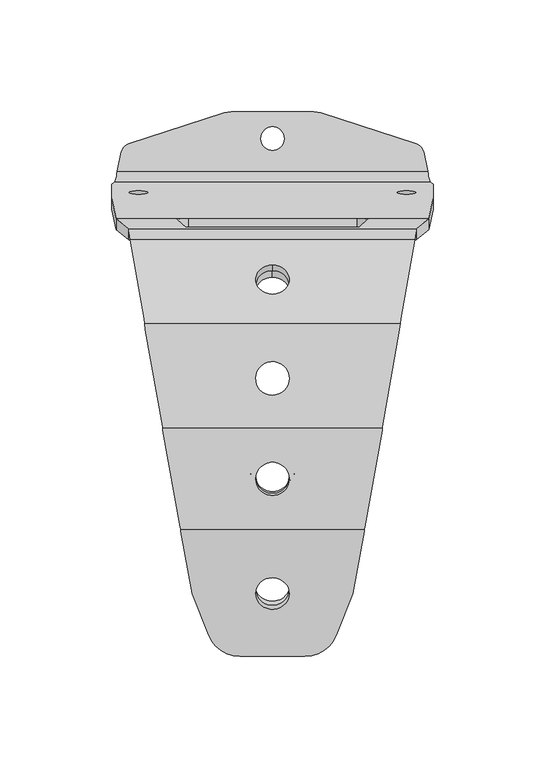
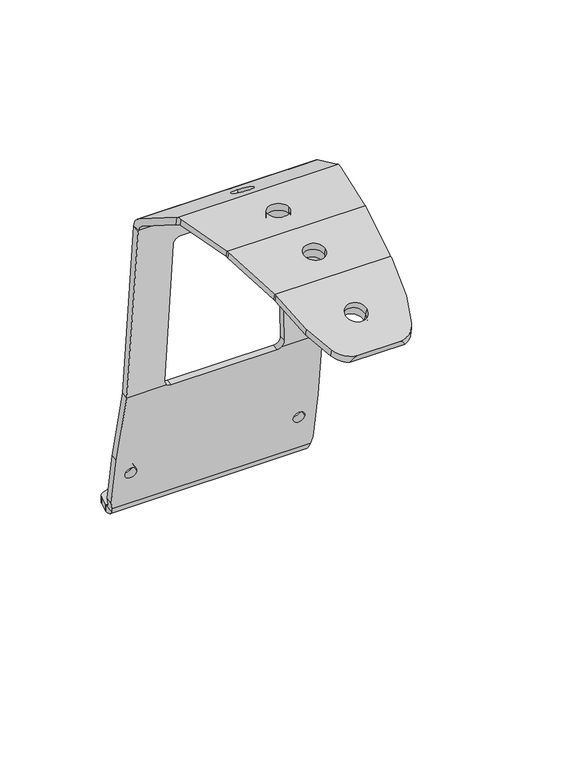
"""IFC4 building model written with IfcOpenShell, lengths in millimetres: proxy geometry, d&b U-Series U3 Vertical Bracket : d&b U-Series U3 Vertical Bracket."""

from ifc_helpers import new_model, si_unit, point, frame, frame_2d, origin, place, context, project, spatial, polyline, circle_curve, ellipse_curve, trimmed, segment, composite_curve, outline, extrude, source, transform, mapped, element, save
from ifc_brep_helpers import plane_surface, cylinder_surface, revolved_surface, advanced_brep


def communication_devices_6d1422ba(model_context):
    return source(origin(), model_context, "Body", "SolidModel", [
        extrude(outline(composite_curve([segment(trimmed(circle_curve(frame_2d((0.0, 5.0)), 5.0), [point((-4.8756643, 6.1081055))], [point((-1.5385005, 9.757417))], False, "CARTESIAN"), True, "CONTINUOUS"), segment(polyline([(-1.5385005, 9.757417), (41.2545364, 23.5962514)]), True, "CONTINUOUS"), segment(trimmed(circle_curve(frame_2d((44.3315373, 14.0814174)), 10.0), [point((41.2545364, 23.5962514))], [point((44.3315373, 24.0814174))], False, "CARTESIAN"), True, "CONTINUOUS"), segment(polyline([(44.3315373, 24.0814174), (81.1780379, 24.0814174)]), True, "CONTINUOUS"), segment(trimmed(circle_curve(frame_2d((81.1780379, 14.0814174)), 10.0), [point((81.1780379, 24.0814174))], [point((84.2550388, 23.5962514))], False, "CARTESIAN"), True, "CONTINUOUS"), segment(polyline([(84.2550388, 23.5962514), (127.0480757, 9.757417)]), True, "CONTINUOUS"), segment(trimmed(circle_curve(frame_2d((125.5095752, 5.0)), 5.0), [point((127.0480757, 9.757417))], [point((130.3852395, 6.1081055))], False, "CARTESIAN"), True, "CONTINUOUS"), segment(polyline([(130.3852395, 6.1081055), (132.3478965, -2.5275849), (-6.8383213, -2.5275849), (-4.8756643, 6.1081055)]), True, "CONTINUOUS")], self_intersect=False), holes=[composite_curve([segment(trimmed(circle_curve(frame_2d((62.7547876, 12.0578536)), 5.25), [point((57.5047876, 12.0578536))], [point((68.0047876, 12.0578536))], True, "CARTESIAN"), True, "CONTINUOUS"), segment(trimmed(circle_curve(frame_2d((62.7547876, 12.0578536)), 5.25), [point((68.0047876, 12.0578536))], [point((57.5047876, 12.0578536))], True, "CARTESIAN"), True, "CONTINUOUS")], self_intersect=False)]), frame((-62.7547876, 133.205173, -13.9854349), z_axis=(0.0, -0.0003176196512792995, 0.9999999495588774), x_axis=(1.0, 0.0, 0.0)), (0.0, 0.0, 1.0), 5.0),
        advanced_brep(
        [(41.1821269, -29.7242263, 236.9121292), (41.2598718, -28.8626312, 237.0640517), (49.0622799, 14.5921226, 244.7262972), (49.1400247, 15.4537177, 244.8782197), (-49.1400247, 15.4537177, 244.8782197), (-49.0622799, 14.5921226, 244.7262972), (-41.2598718, -28.8626312, 237.0640517), (-41.1821269, -29.7242263, 236.9121292), (7.5, -7.1086021, 240.899874), (-7.5, -7.1086021, 240.899874), (49.2165885, 16.3286044, 244.8782197), (56.8594472, 59.5514151, 244.8782197), (57.1198307, 62.230907, 244.8782197), (-57.1198307, 62.230907, 244.8782197), (-56.8594472, 59.5514151, 244.8782197), (-49.2165885, 16.3286044, 244.8782197), (-7.4839243, 37.963436, 244.8782197), (7.4839263, 37.7285527, 244.8782197), (57.3223731, 64.5514151, 243.5384737), (63.6653039, 99.9620756, 223.0941193), (-63.6653039, 99.9620756, 223.0941193), (-57.3223731, 64.5514151, 243.5384737), (0.0, 88.6244069, 229.6399254), (0.0, 75.6340259, 237.1399254), (64.3689642, 104.9559839, 214.7828603), (-64.3689642, 104.9559839, 214.7828603), (69.9756834, 109.3839909, 87.9813307), (41.5029675, 109.3839909, 87.9813307), (42.807065, 109.2664249, 91.347979), (38.8273396, 105.6541079, 194.7912039), (33.8234974, 105.4794763, 199.7919979), (-33.8234974, 105.4794763, 199.7919979), (-38.8273396, 105.6541079, 194.7912039), (-42.8003682, 109.2603463, 91.5220466), (-41.501088, 109.3839909, 87.9813307), (-69.9756834, 109.3839909, 87.9813307), (-70.7531987, 125.7519586, -4.8460273), (-72.0, 124.8329971, 0.3656627), (-72.0, 118.526631, 36.1308421), (-37.8035084, 109.6705739, 86.3560376), (37.8040599, 109.6705739, 86.3560376), (72.0, 118.526631, 36.1308421), (72.0, 124.8329971, 0.3656627), (70.7531987, 125.7519586, -4.8460273), (-55.85, 121.1313536, 21.3587259), (-64.15, 121.1313536, 21.3587259), (55.85, 121.1313536, 21.3587259), (64.15, 121.1313536, 21.3587259), (69.5931089, 130.6759974, -8.9777864), (-69.5931089, 130.6759974, -8.9777864), (69.5931089, 130.6759974, -13.9777864), (69.5931089, 122.9596077, -10.3383941), (70.7531987, 120.8279199, -5.7142682), (-70.7531987, 120.8279199, -5.7142682), (-69.5931089, 122.9596077, -10.3383941), (-69.5931089, 130.6759974, -13.9777864), (72.0, 119.9089583, -0.5025782), (72.0, 113.6025922, 35.2626013), (69.9756834, 104.4599521, 87.1130898), (69.9600814, 104.3992388, 87.4574122), (41.1513049, 104.3992388, 87.4574122), (37.8040599, 104.6245118, 86.1798252), (-37.8035084, 104.6245118, 86.1798252), (-41.1495998, 104.3992388, 87.4574122), (-69.9600814, 104.3992388, 87.4574122), (-69.9756834, 104.4599521, 87.1130898), (-72.0, 113.6025922, 35.2626013), (-72.0, 119.9089583, -0.5025782), (-64.15, 116.2073149, 20.490485), (-55.85, 116.2073149, 20.490485), (64.15, 116.2073149, 20.490485), (55.85, 116.2073149, 20.490485), (-63.3663002, 99.9590297, 214.6083628), (-63.3464959, 99.9835538, 213.9060867), (-64.3689642, 99.9835538, 213.9060867), (-42.8003682, 104.2633922, 91.3475492), (-38.8273396, 100.6571538, 194.6167064), (-33.8234974, 100.4825222, 199.6175004), (33.8234974, 100.4825222, 199.6175004), (38.8273396, 100.6571538, 194.6167064), (42.807065, 104.2694708, 91.1734815), (64.3689642, 99.9835538, 213.9060867), (63.3464959, 99.9835538, 213.9060867), (63.3663002, 99.9590297, 214.6083628), (63.0144701, 97.4620756, 218.7639923), (-63.0144701, 97.4620756, 218.7639923), (57.3223731, 65.6848231, 237.1105976), (56.9039648, 60.891161, 239.8782197), (-56.9039648, 60.891161, 239.8782197), (-57.3223731, 65.6848231, 237.1105976), (0.0, 73.1340259, 232.8097984), (0.0, 86.1244069, 225.3097984), (56.8594472, 60.43305, 239.8782197), (49.2165885, 17.2102393, 239.8782197), (49.1011523, 15.891161, 239.8782197), (-49.1011523, 15.891161, 239.8782197), (-49.2165885, 17.2102393, 239.8782197), (-56.8594472, 60.43305, 239.8782197), (7.4839263, 37.7285527, 239.8782197), (-7.4839243, 37.963436, 239.8782197), (49.0622799, 15.4603635, 239.8022584), (41.2598718, -27.9943903, 232.1400129), (41.2209994, -28.4251879, 232.0640517), (-41.2209994, -28.4251879, 232.0640517), (-41.2598718, -27.9943903, 232.1400129), (-49.0622799, 15.4603635, 239.8022584), (-7.5, -6.2403612, 235.9758352), (7.5, -6.2403612, 235.9758352), (41.1055632, -29.6647159, 231.6129004), (35.8394989, -57.6499634, 221.4271033), (28.6219344, -76.2841576, 214.6448112), (19.5813606, -84.8067451, 211.5428431), (-19.5813606, -84.8067451, 211.5428431), (-28.6219344, -76.2841576, 214.6448112), (-35.8394989, -57.6499634, 221.4271033), (-41.1055632, -29.6647159, 231.6129004), (-7.4839263, -56.6467612, 221.792239), (7.4839243, -56.8674793, 221.7119042), (14.5521077, -86.5168458, 216.2413062), (-14.5521077, -86.5168458, 216.2413062), (-41.1055632, -30.5463508, 236.6129004), (-35.8394989, -58.5315983, 226.4271033), (-28.6219344, -77.1657925, 219.6448112), (28.6219344, -77.1657925, 219.6448112), (35.8394989, -58.5315983, 226.4271033), (41.1055632, -30.5463508, 236.6129004), (7.4839243, -58.5775801, 226.4103673), (-7.4839263, -58.3568619, 226.4907021)],
        [
            (0, 1),
            (1, 2),
            (2, 3),
            (3, 4),
            (4, 5),
            (5, 6),
            (6, 7),
            (7, 0),
            (8, 9, circle_curve(frame((0.0, -7.1086021, 240.899874), z_axis=(0.0, 0.17364817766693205, -0.9848077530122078), x_axis=(1.0, 0.0, 0.0)), 7.5)),
            (9, 8, circle_curve(frame((0.0, -7.1086021, 240.899874), z_axis=(0.0, 0.17364817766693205, -0.9848077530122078), x_axis=(1.0, 0.0, 0.0)), 7.5)),
            (3, 10),
            (10, 11),
            (11, 12),
            (12, 13),
            (13, 14),
            (14, 15),
            (15, 4),
            (16, 17, circle_curve(frame((0.0, 37.8459314, 244.8782197), z_axis=(0.0, 0.0, -1.0), x_axis=(-0.9998772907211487, 0.015665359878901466, 0.0)), 7.4848467)),
            (17, 16, circle_curve(frame((0.0, 37.8459314, 244.8782197), z_axis=(0.0, 0.0, -1.0), x_axis=(-0.9998772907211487, 0.015665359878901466, 0.0)), 7.4848467)),
            (12, 18),
            (18, 19),
            (19, 20),
            (20, 21),
            (21, 13),
            (22, 23, circle_curve(frame((0.0, 82.1292164, 233.3899254), z_axis=(0.0, -0.4999999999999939, -0.8660254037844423), x_axis=(0.0, 0.8660254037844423, -0.4999999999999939)), 7.5)),
            (23, 22, circle_curve(frame((0.0, 82.1292164, 233.3899254), z_axis=(0.0, -0.4999999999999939, -0.8660254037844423), x_axis=(0.0, 0.8660254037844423, -0.4999999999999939)), 7.5)),
            (19, 24, ellipse_curve(frame((62.3636363, 94.9620756, 214.4338653), z_axis=(-0.9801059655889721, 0.1954596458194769, 0.03446480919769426), x_axis=(0.19847492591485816, 0.9652159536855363, 0.17019361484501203)), 10.2029784, 10.0)),
            (24, 25),
            (25, 20, ellipse_curve(frame((-62.3636363, 94.9620756, 214.4338653), z_axis=(0.9801059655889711, 0.19545964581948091, 0.03446480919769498), x_axis=(0.19847492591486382, -0.965215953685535, -0.17019361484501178)), 10.2029784, 10.0)),
            (24, 26),
            (26, 27),
            (27, 28, circle_curve(frame((37.8040599, 109.2664249, 91.347979), z_axis=(0.0, -0.9993908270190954, -0.03489949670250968), x_axis=(0.0, 0.034899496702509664, -0.9993908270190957)), 5.0030051)),
            (28, 29),
            (29, 30, circle_curve(frame((33.8234974, 105.6541079, 194.7912039), z_axis=(0.0, -0.9993908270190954, -0.03489949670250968), x_axis=(0.0, 0.034899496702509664, -0.9993908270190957)), 5.0038422)),
            (30, 31),
            (31, 32, circle_curve(frame((-33.8234974, 105.6541079, 194.7912039), z_axis=(0.0, -0.9993908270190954, -0.03489949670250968), x_axis=(0.0, 0.034899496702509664, -0.9993908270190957)), 5.0038422)),
            (32, 33),
            (33, 34, circle_curve(frame((-37.8035084, 109.2665298, 91.3449757), z_axis=(0.0, -0.9993908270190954, -0.03489949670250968), x_axis=(0.0, 0.034899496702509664, -0.9993908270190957)), 5.0)),
            (34, 35),
            (35, 25),
            (36, 37),
            (37, 38),
            (38, 35),
            (34, 39, ellipse_curve(frame((-37.8035084, 108.7938003, 91.3284677), z_axis=(0.0, -0.9848077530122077, -0.17364817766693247), x_axis=(0.0, 0.17364817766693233, -0.9848077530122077)), 5.0491379, 5.0)),
            (39, 40),
            (40, 27, ellipse_curve(frame((37.8040599, 108.7932734, 91.3314562), z_axis=(0.0, -0.9848077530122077, -0.17364817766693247), x_axis=(0.0, 0.17364817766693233, -0.9848077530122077)), 5.0521725, 5.0030051)),
            (26, 41),
            (41, 42),
            (42, 43),
            (43, 36),
            (44, 45, circle_curve(frame((-60.0, 121.1313536, 21.3587259), z_axis=(0.0, -0.9848077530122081, -0.1736481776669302), x_axis=(1.0, 0.0, 0.0)), 4.15)),
            (45, 44, circle_curve(frame((-60.0, 121.1313536, 21.3587259), z_axis=(0.0, -0.9848077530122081, -0.1736481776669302), x_axis=(1.0, 0.0, 0.0)), 4.15)),
            (46, 47, circle_curve(frame((60.0, 121.1313536, 21.3587259), z_axis=(0.0, -0.9848077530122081, -0.1736481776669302), x_axis=(-1.0, 0.0, 0.0)), 4.15)),
            (47, 46, circle_curve(frame((60.0, 121.1313536, 21.3587259), z_axis=(0.0, -0.9848077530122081, -0.1736481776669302), x_axis=(-1.0, 0.0, 0.0)), 4.15)),
            (43, 48, ellipse_curve(frame((70.7531987, 130.6759974, -3.9777864), z_axis=(0.973351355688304, 0.039820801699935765, -0.2258349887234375), x_axis=(-0.22931885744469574, 0.16902068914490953, -0.9585639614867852)), 5.1368912, 5.0)),
            (48, 49),
            (49, 36, ellipse_curve(frame((-70.7531987, 130.6759974, -3.9777864), z_axis=(-0.9733513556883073, 0.03982080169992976, -0.22583498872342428), x_axis=(-0.22931885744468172, -0.16902068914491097, 0.9585639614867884)), 5.1368912, 5.0)),
            (50, 51, circle_curve(frame((69.5931089, 130.6759974, -3.9777864), z_axis=(-1.0, 0.0, 0.0), x_axis=(0.0, 0.9848077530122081, 0.1736481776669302)), 10.0)),
            (51, 52, ellipse_curve(frame((70.7531987, 130.6759974, -3.9777864), z_axis=(-0.973351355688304, -0.039820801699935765, 0.2258349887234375), x_axis=(0.22931885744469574, -0.16902068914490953, 0.9585639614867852)), 10.2737824, 10.0)),
            (52, 53),
            (53, 54, ellipse_curve(frame((-70.7531987, 130.6759974, -3.9777864), z_axis=(0.9733513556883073, -0.03982080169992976, 0.22583498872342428), x_axis=(0.22931885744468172, 0.16902068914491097, -0.9585639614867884)), 10.2737824, 10.0)),
            (54, 55, circle_curve(frame((-69.5931089, 130.6759974, -3.9777864), z_axis=(1.0, 0.0, 0.0), x_axis=(0.0, 0.9848077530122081, 0.1736481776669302)), 10.0)),
            (55, 50),
            (52, 56),
            (56, 57),
            (57, 58),
            (58, 59),
            (59, 60),
            (60, 61, ellipse_curve(frame((37.8040599, 103.7472113, 91.1552438), z_axis=(0.0, 0.9848077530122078, 0.17364817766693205), x_axis=(0.0, 0.17364817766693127, -0.9848077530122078)), 5.0521725, 5.0030051)),
            (61, 62),
            (62, 63, ellipse_curve(frame((-37.8035084, 103.7477382, 91.1522553), z_axis=(0.0, 0.9848077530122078, 0.17364817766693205), x_axis=(0.0, 0.17364817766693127, -0.9848077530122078)), 5.0491379, 5.0)),
            (63, 64),
            (64, 65),
            (65, 66),
            (66, 67),
            (67, 53),
            (68, 69, circle_curve(frame((-60.0, 116.2073149, 20.490485), z_axis=(0.0, 0.9848077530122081, 0.1736481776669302), x_axis=(1.0, 0.0, 0.0)), 4.15)),
            (69, 68, circle_curve(frame((-60.0, 116.2073149, 20.490485), z_axis=(0.0, 0.9848077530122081, 0.1736481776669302), x_axis=(1.0, 0.0, 0.0)), 4.15)),
            (70, 71, circle_curve(frame((60.0, 116.2073149, 20.490485), z_axis=(0.0, 0.9848077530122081, 0.1736481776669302), x_axis=(-1.0, 0.0, 0.0)), 4.15)),
            (71, 70, circle_curve(frame((60.0, 116.2073149, 20.490485), z_axis=(0.0, 0.9848077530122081, 0.1736481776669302), x_axis=(-1.0, 0.0, 0.0)), 4.15)),
            (72, 73),
            (73, 74),
            (74, 64),
            (63, 75, circle_curve(frame((-37.8035084, 104.2695756, 91.1704783), z_axis=(0.0, 0.9993908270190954, 0.03489949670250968), x_axis=(0.0, 0.034899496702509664, -0.9993908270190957)), 5.0)),
            (75, 76),
            (76, 77, circle_curve(frame((-33.8234974, 100.6571538, 194.6167064), z_axis=(0.0, 0.9993908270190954, 0.03489949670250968), x_axis=(0.0, 0.034899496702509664, -0.9993908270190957)), 5.0038422)),
            (77, 78),
            (78, 79, circle_curve(frame((33.8234974, 100.6571538, 194.6167064), z_axis=(0.0, 0.9993908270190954, 0.03489949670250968), x_axis=(0.0, 0.034899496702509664, -0.9993908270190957)), 5.0038422)),
            (79, 80),
            (80, 60, circle_curve(frame((37.8040599, 104.2694708, 91.1734815), z_axis=(0.0, 0.9993908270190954, 0.03489949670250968), x_axis=(0.0, 0.034899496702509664, -0.9993908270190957)), 5.0030051)),
            (59, 81),
            (81, 82),
            (82, 83),
            (83, 72),
            (83, 84, ellipse_curve(frame((62.3636363, 94.9620756, 214.4338653), z_axis=(0.9801059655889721, -0.1954596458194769, -0.03446480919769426), x_axis=(-0.19847492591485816, -0.9652159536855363, -0.17019361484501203)), 5.1014892, 5.0)),
            (84, 85),
            (85, 72, ellipse_curve(frame((-62.3636363, 94.9620756, 214.4338653), z_axis=(-0.9801059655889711, -0.19545964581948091, -0.03446480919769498), x_axis=(-0.19847492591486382, 0.965215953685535, 0.17019361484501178)), 5.1014892, 5.0)),
            (84, 86),
            (86, 87),
            (87, 88),
            (88, 89),
            (89, 85),
            (90, 91, circle_curve(frame((0.0, 79.6292164, 229.0597984), z_axis=(0.0, 0.4999999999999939, 0.8660254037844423), x_axis=(0.0, 0.8660254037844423, -0.4999999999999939)), 7.5)),
            (91, 90, circle_curve(frame((0.0, 79.6292164, 229.0597984), z_axis=(0.0, 0.4999999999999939, 0.8660254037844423), x_axis=(0.0, 0.8660254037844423, -0.4999999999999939)), 7.5)),
            (87, 92),
            (92, 93),
            (93, 94),
            (94, 95),
            (95, 96),
            (96, 97),
            (97, 88),
            (98, 99, circle_curve(frame((0.0, 37.8459314, 239.8782197), z_axis=(0.0, 0.0, 1.0), x_axis=(-0.9998772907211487, 0.015665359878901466, 0.0)), 7.4848467)),
            (99, 98, circle_curve(frame((0.0, 37.8459314, 239.8782197), z_axis=(0.0, 0.0, 1.0), x_axis=(-0.9998772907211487, 0.015665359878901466, 0.0)), 7.4848467)),
            (94, 100),
            (100, 101),
            (101, 102),
            (102, 103),
            (103, 104),
            (104, 105),
            (105, 95),
            (106, 107, circle_curve(frame((0.0, -6.2403612, 235.9758352), z_axis=(0.0, -0.17364817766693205, 0.9848077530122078), x_axis=(1.0, 0.0, 0.0)), 7.5)),
            (107, 106, circle_curve(frame((0.0, -6.2403612, 235.9758352), z_axis=(0.0, -0.17364817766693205, 0.9848077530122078), x_axis=(1.0, 0.0, 0.0)), 7.5)),
            (102, 108),
            (108, 109),
            (109, 110),
            (110, 111, ellipse_curve(frame((14.5521077, -71.3223775, 216.4507515), z_axis=(0.0, 0.34202014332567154, -0.9396926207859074), x_axis=(0.0, -0.9396926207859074, -0.34202014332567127)), 15.2313992, 15.0)),
            (111, 112),
            (112, 113, ellipse_curve(frame((-14.5521077, -71.3223775, 216.4507515), z_axis=(0.0, 0.34202014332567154, -0.9396926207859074), x_axis=(0.0, -0.9396926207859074, -0.34202014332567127)), 15.2313992, 15.0)),
            (113, 114),
            (114, 115),
            (115, 103),
            (116, 117, circle_curve(frame((0.0, -56.7570611, 221.7520931), z_axis=(0.0, -0.3420201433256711, 0.9396926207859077), x_axis=(0.999877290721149, -0.014720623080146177, -0.005357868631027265)), 7.4848467)),
            (117, 116, circle_curve(frame((0.0, -56.7570611, 221.7520931), z_axis=(0.0, -0.3420201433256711, 0.9396926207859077), x_axis=(0.999877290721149, -0.014720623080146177, -0.005357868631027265)), 7.4848467)),
            (111, 118, ellipse_curve(frame((14.5521077, -56.9726132, 135.0691943), z_axis=(0.0, -0.9396926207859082, -0.34202014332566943), x_axis=(0.0, 0.34202014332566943, -0.9396926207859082)), 86.3815572, 15.0)),
            (118, 119),
            (119, 112, ellipse_curve(frame((-14.5521077, -56.9726132, 135.0691943), z_axis=(0.0, -0.9396926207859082, -0.34202014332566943), x_axis=(0.0, 0.34202014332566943, -0.9396926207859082)), 86.3815572, 15.0)),
            (7, 120),
            (120, 121),
            (121, 122),
            (122, 119, ellipse_curve(frame((-14.5521077, -72.2040124, 221.4507515), z_axis=(0.0, -0.3420201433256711, 0.9396926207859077), x_axis=(0.0, -0.9396926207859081, -0.34202014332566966)), 15.2313992, 15.0)),
            (118, 123, ellipse_curve(frame((14.5521077, -72.2040124, 221.4507515), z_axis=(0.0, -0.3420201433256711, 0.9396926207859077), x_axis=(0.0, -0.9396926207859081, -0.34202014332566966)), 15.2313992, 15.0)),
            (123, 124),
            (124, 125),
            (125, 0),
            (126, 127, circle_curve(frame((0.0, -58.4671618, 226.4505562), z_axis=(0.0, 0.3420201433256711, -0.9396926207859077), x_axis=(0.999877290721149, -0.014720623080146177, -0.005357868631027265)), 7.4848467)),
            (127, 126, circle_curve(frame((0.0, -58.4671618, 226.4505562), z_axis=(0.0, 0.3420201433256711, -0.9396926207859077), x_axis=(0.999877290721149, -0.014720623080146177, -0.005357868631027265)), 7.4848467)),
            (81, 24),
            (24, 82),
            (25, 74),
            (73, 25),
            (110, 123),
            (109, 124),
            (108, 125),
            (101, 1),
            (100, 2),
            (93, 10),
            (92, 11),
            (86, 18),
            (114, 121),
            (120, 115),
            (113, 122),
            (96, 15),
            (14, 97),
            (105, 5),
            (104, 6),
            (107, 8),
            (9, 106),
            (117, 126),
            (127, 116),
            (99, 16),
            (17, 98),
            (66, 38),
            (37, 67),
            (65, 35),
            (55, 49),
            (48, 50),
            (54, 49),
            (89, 21),
            (58, 26),
            (57, 41),
            (56, 42),
            (51, 48),
            (91, 22),
            (23, 90),
            (76, 32),
            (31, 77),
            (75, 33),
            (62, 39),
            (61, 40),
            (80, 28),
            (79, 29),
            (78, 30),
            (69, 44),
            (45, 68),
            (71, 46),
            (47, 70),
        ],
        [
            plane_surface(frame((80.0, -29.7242263, 236.9121292), z_axis=(0.0, -0.17364817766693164, 0.9848077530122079), x_axis=(-1.0, 0.0, 0.0))),
            plane_surface(frame((80.0, 15.4537177, 244.8782197), z_axis=(0.0, 0.0, 1.0), x_axis=(-1.0, 0.0, 0.0))),
            plane_surface(frame((80.0, 62.230907, 244.8782197), z_axis=(0.0, 0.4999999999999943, 0.866025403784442), x_axis=(-1.0, 0.0, 0.0))),
            cylinder_surface(frame((-80.0, 94.9620756, 214.4338653), z_axis=(1.0, 0.0, 0.0), x_axis=(0.0, 0.9848077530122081, 0.1736481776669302)), 10.0),
            plane_surface(frame((80.0, 104.9559839, 214.7828603), z_axis=(0.0, 0.9993908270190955, 0.03489949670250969), x_axis=(-1.0, 0.0, 0.0))),
            plane_surface(frame((80.0, 109.3839909, 87.9813307), z_axis=(0.0, 0.9848077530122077, 0.17364817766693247), x_axis=(-1.0, 0.0, 0.0))),
            revolved_surface(polyline([(-71.93118472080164, 135.60003616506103, -3.109545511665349), (71.9311847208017, 135.60003616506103, -3.109545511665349)]), (-80.0, 130.6759974, -3.9777864), (-1.0, 0.0, 0.0)),
            cylinder_surface(frame((-80.0, 130.6759974, -3.9777864), z_axis=(1.0, 0.0, 0.0), x_axis=(0.0, 0.9848077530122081, 0.1736481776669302)), 10.0),
            plane_surface(frame((80.0, 120.8279199, -5.7142682), z_axis=(0.0, -0.9848077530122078, -0.17364817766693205), x_axis=(-1.0, 0.0, 0.0))),
            plane_surface(frame((80.0, 104.3992388, 87.4574122), z_axis=(0.0, -0.9993908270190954, -0.03489949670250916), x_axis=(-1.0, 0.0, 0.0))),
            revolved_surface(polyline([(-63.37615399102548, 99.88611436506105, 215.30210618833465), (63.37615399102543, 99.88611436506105, 215.30210618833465)]), (-80.0, 94.9620756, 214.4338653), (-1.0, 0.0, 0.0)),
            plane_surface(frame((80.0, 97.4620756, 218.7639923), z_axis=(0.0, -0.49999999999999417, -0.8660254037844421), x_axis=(-1.0, 0.0, 0.0))),
            plane_surface(frame((80.0, 60.891161, 239.8782197), z_axis=(0.0, 0.0, -1.0), x_axis=(-1.0, 0.0, 0.0))),
            plane_surface(frame((80.0, 15.891161, 239.8782197), z_axis=(0.0, 0.17364817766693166, -0.9848077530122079), x_axis=(-1.0, 0.0, 0.0))),
            plane_surface(frame((80.0, -28.4251879, 232.0640517), z_axis=(0.0, 0.34202014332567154, -0.9396926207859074), x_axis=(-1.0, 0.0, 0.0))),
            plane_surface(frame((80.0, -84.8067451, 211.5428431), z_axis=(0.0, -0.9396926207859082, -0.34202014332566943), x_axis=(-1.0, 0.0, 0.0))),
            plane_surface(frame((80.0, -86.5168458, 216.2413062), z_axis=(0.0, -0.3420201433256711, 0.9396926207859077), x_axis=(-1.0, 0.0, 0.0))),
            plane_surface(frame((41.2598718, -21.017198, 192.5703894), z_axis=(0.0, -0.17364817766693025, 0.9848077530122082), x_axis=(-0.08851400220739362, -0.9809423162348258, -0.17296659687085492))),
            cylinder_surface(frame((14.5521077, -65.7217083, 184.6877781), z_axis=(0.0, 0.1736481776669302, -0.9848077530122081), x_axis=(1.0, 0.0, 0.0)), 15.0),
            plane_surface(frame((28.6219344, -80.6895287, 239.628912), z_axis=(0.9379884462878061, -0.3413998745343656, -0.06019800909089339), x_axis=(0.0, 0.1736481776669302, -0.9848077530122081))),
            plane_surface(frame((35.8394989, -61.4573839, 243.020058), z_axis=(0.9842600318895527, -0.17404144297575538, -0.030688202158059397), x_axis=(0.0, 0.1736481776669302, -0.9848077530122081))),
            plane_surface(frame((41.1055632, -32.574121, 248.1129566), z_axis=(0.9960749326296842, -0.08716927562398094, -0.01537029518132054), x_axis=(0.0, 0.1736481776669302, -0.9848077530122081))),
            plane_surface(frame((41.2598718, -30.8640203, 248.4144935), z_axis=(0.9847238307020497, -0.17147812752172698, -0.03023622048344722), x_axis=(0.0, 0.1736481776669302, -0.9848077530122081))),
            plane_surface(frame((49.0622799, 12.5907334, 256.076739), z_axis=(0.9960749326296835, -0.08716927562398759, -0.01537029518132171), x_axis=(0.0, 0.1736481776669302, -0.9848077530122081))),
            plane_surface(frame((49.2165885, 14.3008342, 256.3782759), z_axis=(0.9842600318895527, -0.17404144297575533, -0.030688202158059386), x_axis=(0.0, 0.1736481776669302, -0.9848077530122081))),
            plane_surface(frame((56.8594472, 56.2203177, 263.7698118), z_axis=(0.9951668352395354, -0.09670676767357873, -0.017052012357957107), x_axis=(0.0, 0.1736481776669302, -0.9848077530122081))),
            plane_surface(frame((57.3223731, 60.8404392, 264.5844639), z_axis=(0.9801059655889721, -0.1954596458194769, -0.03446480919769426), x_axis=(0.0, 0.1736481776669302, -0.9848077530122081))),
            plane_surface(frame((-41.1055632, -32.574121, 248.1129566), z_axis=(-0.984260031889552, -0.17404144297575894, -0.03068820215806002), x_axis=(0.0, 0.1736481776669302, -0.9848077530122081))),
            plane_surface(frame((-35.8394989, -61.4573839, 243.020058), z_axis=(-0.9379884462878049, -0.3413998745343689, -0.06019800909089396), x_axis=(0.0, 0.1736481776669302, -0.9848077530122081))),
            cylinder_surface(frame((-14.5521077, -32.1564861, -5.6700561), z_axis=(0.0, 0.1736481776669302, -0.9848077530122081), x_axis=(-1.0, 0.0, 0.0)), 15.0),
            plane_surface(frame((-56.8594472, 56.2203177, 263.7698118), z_axis=(-0.984260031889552, -0.17404144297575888, -0.030688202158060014), x_axis=(0.0, 0.1736481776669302, -0.9848077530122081))),
            plane_surface(frame((-49.2165885, 14.3008342, 256.3782759), z_axis=(-0.9960749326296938, -0.08716927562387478, -0.01537029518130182), x_axis=(0.0, 0.1736481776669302, -0.9848077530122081))),
            plane_surface(frame((-49.0622799, 12.5907334, 256.076739), z_axis=(-0.9847238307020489, -0.17147812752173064, -0.030236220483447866), x_axis=(0.0, 0.1736481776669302, -0.9848077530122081))),
            plane_surface(frame((-41.2598718, -30.8640203, 248.4144935), z_axis=(-0.9960749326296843, -0.08716927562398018, -0.015370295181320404), x_axis=(0.0, 0.1736481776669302, -0.9848077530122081))),
            revolved_surface(polyline([(7.5, -7.108602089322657, 240.89987400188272), (7.5, -6.240361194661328, 235.97583520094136)]), (0.0, -5.3721203, 231.0517964), (0.0, -0.17364817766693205, 0.9848077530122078)),
            revolved_surface(polyline([(7.483928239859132, -58.577343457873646, 226.41045343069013), (7.483928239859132, -56.867242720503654, 221.71199026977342)]), (0.0, -55.0469604, 217.05363), (0.0, -0.3420201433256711, 0.9396926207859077)),
            revolved_surface(polyline([(-7.483928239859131, 37.963184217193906, 244.8782197), (-7.483928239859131, 37.963184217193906, 239.8782197)]), (0.0, 37.8459314, 234.8782197), (0.0, 0.0, 1.0000000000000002)),
            plane_surface(frame((-72.0, 191.670205, 12.1508658), z_axis=(-1.0, 0.0, 0.0), x_axis=(0.0, -0.9848077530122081, -0.1736481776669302))),
            plane_surface(frame((-72.0, 185.3638389, 47.9160452), z_axis=(-0.9992616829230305, -0.006671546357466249, 0.037836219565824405), x_axis=(0.0, -0.9848077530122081, -0.1736481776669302))),
            plane_surface(frame((-69.9756834, 176.2211988, 99.7665338), z_axis=(-0.9990058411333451, -0.00774114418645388, 0.04390221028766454), x_axis=(0.0, -0.9848077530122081, -0.1736481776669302))),
            plane_surface(frame((80.0, 130.6759974, -8.9777864), z_axis=(0.0, 1.0, 0.0), x_axis=(-1.0, 0.0, 0.0))),
            plane_surface(frame((-69.5931089, 195.1016269, -7.3096949), z_axis=(-1.0, 0.0, 0.0), x_axis=(0.0, -0.9848077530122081, -0.1736481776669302))),
            plane_surface(frame((-69.5931089, 193.4442169, 2.0899442), z_axis=(-0.9733513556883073, 0.03982080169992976, -0.22583498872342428), x_axis=(0.0, -0.9848077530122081, -0.1736481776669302))),
            plane_surface(frame((-68.1591463, 113.541436, 273.8770716), z_axis=(-0.9801059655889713, -0.19545964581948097, -0.034464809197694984), x_axis=(0.0, 0.1736481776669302, -0.9848077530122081))),
            plane_surface(frame((-57.3223731, 60.8404392, 264.5844639), z_axis=(-0.9951668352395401, -0.09670676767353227, -0.017052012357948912), x_axis=(0.0, 0.1736481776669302, -0.9848077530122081))),
            plane_surface(frame((64.3689642, 154.4033394, 223.5017632), z_axis=(0.9990058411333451, -0.0077411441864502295, 0.04390221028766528), x_axis=(0.0, -0.9848077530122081, -0.1736481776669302))),
            plane_surface(frame((69.9756834, 176.2211988, 99.7665338), z_axis=(0.9992616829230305, -0.006671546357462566, 0.03783621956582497), x_axis=(0.0, -0.9848077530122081, -0.1736481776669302))),
            plane_surface(frame((72.0, 185.3638389, 47.9160452), z_axis=(1.0, 0.0, 0.0), x_axis=(0.0, -0.9848077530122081, -0.1736481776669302))),
            plane_surface(frame((72.0, 191.670205, 12.1508658), z_axis=(0.9733513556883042, 0.03982080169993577, -0.22583498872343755), x_axis=(0.0, -0.9848077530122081, -0.1736481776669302))),
            plane_surface(frame((69.5931089, 193.4442169, 2.0899442), z_axis=(1.0, 0.0, 0.0), x_axis=(0.0, -0.9848077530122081, -0.1736481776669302))),
            revolved_surface(polyline([(0.0, 88.62440691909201, 229.63992542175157), (0.0, 86.12440691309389, 225.30979839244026)]), (0.0, 77.1292164, 224.7296714), (0.0, 0.4999999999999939, 0.8660254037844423)),
            revolved_surface(polyline([(-33.8234974, 105.82873947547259, 189.79040987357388), (-33.8234974, 100.83178534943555, 189.61591239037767)]), (-33.8234974, 95.6601996, 194.4422089), (0.0, 0.9993908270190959, 0.03489949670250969)),
            plane_surface(frame((-38.8273396, 115.6480162, 195.1401988), z_axis=(0.9992616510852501, 0.001340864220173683, -0.03839732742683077), x_axis=(0.0, -0.9993908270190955, -0.03489949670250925))),
            revolved_surface(polyline([(-37.8035084, 109.67057390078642, 86.35603757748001), (-37.8035084, 103.2199595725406, 86.1307771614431)]), (-37.8035084, 99.2726215, 90.9959808), (0.0, 0.9993908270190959, 0.03489949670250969)),
            plane_surface(frame((-37.8035084, 119.4349355, 86.6970166), z_axis=(0.0, -0.03489949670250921, 0.9993908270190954), x_axis=(0.0, -0.9993908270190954, -0.03489949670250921))),
            revolved_surface(polyline([(37.8040599, 109.67057394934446, 86.35603751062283), (37.8040599, 103.21911547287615, 86.13074761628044)]), (37.8040599, 99.2725166, 90.998984), (0.0, 0.9993908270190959, 0.03489949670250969)),
            plane_surface(frame((42.807065, 119.2603332, 91.696974), z_axis=(-0.9992616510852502, 0.0013408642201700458, -0.038397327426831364), x_axis=(0.0, -0.9993908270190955, -0.03489949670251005))),
            revolved_surface(polyline([(33.8234974, 105.82873947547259, 189.79040987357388), (33.8234974, 100.83178534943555, 189.61591239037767)]), (33.8234974, 95.6601996, 194.4422089), (0.0, 0.9993908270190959, 0.03489949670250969)),
            plane_surface(frame((33.8234974, 115.4733846, 200.1409928), z_axis=(0.0, 0.03489949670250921, -0.9993908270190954), x_axis=(0.0, -0.9993908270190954, -0.03489949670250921))),
            revolved_surface(polyline([(-55.85, 121.13135360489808, 21.35872587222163), (-55.85, 116.20731490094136, 20.49048499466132)]), (-60.0, 111.2832761, 19.6222441), (0.0, 0.9848077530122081, 0.1736481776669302)),
            revolved_surface(polyline([(55.85, 121.1313536, 21.3587259), (55.85, 116.20731489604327, 20.49048502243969)]), (60.0, 121.1313536, 21.3587259), (0.0, 0.9848077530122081, 0.1736481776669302)),
        ],
        [
            (0, [[1, 2, 3, 4, 5, 6, 7, 8], [9, 10]]),
            (1, [[11, 12, 13, 14, 15, 16, 17, -4], [18, 19]]),
            (2, [[20, 21, 22, 23, 24, -14], [25, 26]]),
            (3, [[27, 28, 29, -22]]),
            (4, [[30, 31, 32, 33, 34, 35, 36, 37, 38, 39, 40, -28]]),
            (5, [[41, 42, 43, -39, 44, 45, 46, -31, 47, 48, 49, 50], [51, 52], [53, 54]]),
            (6, [[55, 56, 57, -50]]),
            (7, [[58, 59, 60, 61, 62, 63]]),
            (8, [[64, 65, 66, 67, 68, 69, 70, 71, 72, 73, 74, 75, 76, -60], [77, 78], [79, 80]]),
            (9, [[81, 82, 83, -72, 84, 85, 86, 87, 88, 89, 90, -68, 91, 92, 93, 94]]),
            (10, [[95, 96, 97, -94]]),
            (11, [[98, 99, 100, 101, 102, -96], [103, 104]]),
            (12, [[105, 106, 107, 108, 109, 110, 111, -100], [112, 113]]),
            (13, [[114, 115, 116, 117, 118, 119, 120, -108], [121, 122]]),
            (14, [[123, 124, 125, 126, 127, 128, 129, 130, 131, -117], [132, 133]]),
            (15, [[134, 135, 136, -127]]),
            (16, [[137, 138, 139, 140, -135, 141, 142, 143, 144, -8], [145, 146]]),
            (17, [[-92, 147, 148]]),
            (17, [[149, -82, 150]]),
            (18, [[-141, -134, -126, 151]]),
            (19, [[-125, 152, -142, -151]]),
            (20, [[-124, 153, -143, -152]]),
            (21, [[-123, -116, 154, -1, -144, -153]]),
            (22, [[-115, 155, -2, -154]]),
            (23, [[-114, -107, 156, -11, -3, -155]]),
            (24, [[-106, 157, -12, -156]]),
            (25, [[-105, -99, 158, -20, -13, -157]]),
            (26, [[-27, -21, -158, -98, -95, -93, -148]]),
            (27, [[-130, 159, -138, 160]]),
            (28, [[-129, 161, -139, -159]]),
            (29, [[-128, -136, -140, -161]]),
            (30, [[-110, 162, -16, 163]]),
            (31, [[-109, -120, 164, -5, -17, -162]]),
            (32, [[-119, 165, -6, -164]]),
            (33, [[-137, -7, -165, -118, -131, -160]]),
            (34, [[-122, 166, -10, 167]]),
            (34, [[-9, -166, -121, -167]]),
            (35, [[-133, 168, -146, 169]]),
            (35, [[-145, -168, -132, -169]]),
            (36, [[-113, 170, -19, 171]]),
            (36, [[-18, -170, -112, -171]]),
            (37, [[-75, 172, -42, 173]]),
            (38, [[-74, 174, -43, -172]]),
            (39, [[-73, -83, -149, -40, -174]]),
            (40, [[175, -56, 176, -63]]),
            (41, [[-175, -62, 177]]),
            (42, [[-41, -57, -177, -61, -76, -173]]),
            (43, [[-81, -97, -102, 178, -23, -29, -150]]),
            (44, [[-15, -24, -178, -101, -111, -163]]),
            (45, [[-30, -147, -91, -67, 179]]),
            (46, [[-66, 180, -47, -179]]),
            (47, [[-65, 181, -48, -180]]),
            (48, [[-64, -59, 182, -55, -49, -181]]),
            (49, [[-58, -176, -182]]),
            (50, [[-104, 183, -26, 184]]),
            (50, [[-25, -183, -103, -184]]),
            (51, [[-86, 185, -36, 186]]),
            (52, [[-85, 187, -37, -185]]),
            (53, [[-84, -71, 188, -44, -38, -187]]),
            (54, [[-70, 189, -45, -188]]),
            (55, [[-69, -90, 190, -32, -46, -189]]),
            (56, [[-89, 191, -33, -190]]),
            (57, [[-88, 192, -34, -191]]),
            (58, [[-35, -192, -87, -186]]),
            (59, [[-78, 193, -52, 194]]),
            (59, [[-51, -193, -77, -194]]),
            (60, [[-80, 195, -54, 196]]),
            (60, [[-53, -195, -79, -196]]),
        ],
    ),
        extrude(outline(composite_curve([segment(trimmed(circle_curve(frame_2d((0.0, 10.0)), 10.0), [point((0.0, 19.9999999))], [point((0.0, 0.0))], False, "CARTESIAN"), True, "CONTINUOUS"), segment(trimmed(circle_curve(frame_2d((0.0, 10.0)), 10.0), [point((0.0, 0.0))], [point((0.0, 19.9999999))], False, "CARTESIAN"), True, "CONTINUOUS")], self_intersect=False), holes=[composite_curve([segment(trimmed(circle_curve(frame_2d((0.0, 10.0)), 8.0), [point((0.0, 17.9999999))], [point((0.0, 2.0))], True, "CARTESIAN"), True, "CONTINUOUS"), segment(trimmed(circle_curve(frame_2d((0.0, 10.0)), 8.0), [point((0.0, 2.0))], [point((0.0, 17.9999999))], True, "CARTESIAN"), True, "CONTINUOUS")], self_intersect=False)]), frame((0.0, 84.7894704, 217.9976205), z_axis=(0.0, 0.4999999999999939, 0.8660254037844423), x_axis=(-1.0, 0.0, 0.0)), (0.0, 0.0, 1.0), 7.0),
        extrude(outline(composite_curve([segment(trimmed(circle_curve(frame_2d((0.0, 37.8459314)), 10.0), [point((9.9987729, 37.6892778))], [point((-9.9987729, 38.002585))], False, "CARTESIAN"), True, "CONTINUOUS"), segment(trimmed(circle_curve(frame_2d((0.0, 37.8459314)), 10.0), [point((-9.9987729, 38.002585))], [point((9.9987729, 37.6892778))], False, "CARTESIAN"), True, "CONTINUOUS")], self_intersect=False), holes=[composite_curve([segment(trimmed(circle_curve(frame_2d((0.0, 37.8459314)), 8.0), [point((7.9990183, 37.7206085))], [point((-7.9990183, 37.9712543))], True, "CARTESIAN"), True, "CONTINUOUS"), segment(trimmed(circle_curve(frame_2d((0.0, 37.8459314)), 8.0), [point((-7.9990183, 37.9712543))], [point((7.9990183, 37.7206085))], True, "CARTESIAN"), True, "CONTINUOUS")], self_intersect=False)]), frame((0.0, 0.0, 232.8782197), z_axis=(0.0, 0.0, 1.0), x_axis=(1.0, 0.0, 0.0)), (0.0, 0.0, 1.0), 7.0),
        extrude(outline(composite_curve([segment(trimmed(circle_curve(frame_2d((0.0, 10.0)), 10.0), [point((0.0, 20.0))], [point((0.0, 0.0))], False, "CARTESIAN"), True, "CONTINUOUS"), segment(trimmed(circle_curve(frame_2d((0.0, 10.0)), 10.0), [point((0.0, 0.0))], [point((0.0, 20.0))], False, "CARTESIAN"), True, "CONTINUOUS")], self_intersect=False), holes=[composite_curve([segment(trimmed(circle_curve(frame_2d((0.0, 10.0)), 8.0), [point((0.0, 18.0))], [point((0.0, 2.0))], True, "CARTESIAN"), True, "CONTINUOUS"), segment(trimmed(circle_curve(frame_2d((0.0, 10.0)), 8.0), [point((0.0, 2.0))], [point((0.0, 18.0))], True, "CARTESIAN"), True, "CONTINUOUS")], self_intersect=False)]), frame((10.0, -5.0248239, 229.0821809), z_axis=(0.0, -0.17364817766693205, 0.9848077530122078), x_axis=(0.0, 0.9848077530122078, 0.17364817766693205)), (0.0, 0.0, 1.0), 7.0),
        extrude(outline(composite_curve([segment(trimmed(circle_curve(frame_2d((0.0, 10.0)), 10.0), [point((0.0, 20.0))], [point((0.0, 0.0))], False, "CARTESIAN"), True, "CONTINUOUS"), segment(trimmed(circle_curve(frame_2d((0.0, 10.0)), 10.0), [point((0.0, 0.0))], [point((0.0, 20.0))], False, "CARTESIAN"), True, "CONTINUOUS")], self_intersect=False), holes=[composite_curve([segment(trimmed(circle_curve(frame_2d((0.0, 10.0)), 8.0), [point((0.0, 18.0))], [point((-1e-07, 2.0))], True, "CARTESIAN"), True, "CONTINUOUS"), segment(trimmed(circle_curve(frame_2d((0.0, 10.0)), 8.0), [point((-1e-07, 2.0))], [point((0.0, 18.0))], True, "CARTESIAN"), True, "CONTINUOUS")], self_intersect=False)]), frame((9.9987729, -54.5101263, 215.1206661), z_axis=(0.0, -0.3420201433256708, 0.9396926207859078), x_axis=(0.015665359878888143, 0.9395773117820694, 0.3419781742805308)), (0.0, 0.0, 1.0), 7.0),
    ])


if __name__ == "__main__":
    model = new_model("IFC4")
    model_context = context("Model", 3, world=origin())
    ifc_project = project(units=[si_unit("LENGTHUNIT", "METRE", prefix="MILLI")], contexts=[model_context])
    site = spatial("IfcSite", under=ifc_project)
    building = spatial("IfcBuilding", under=site)
    placement = place(None, origin())
    communication_devices_shape = communication_devices_6d1422ba(model_context)
    element("IfcBuildingElementProxy", 1, Name="d&b U-Series U3 Vertical Bracket : d&b U-Series U3 Vertical Bracket", ObjectType="d&b U-Series U3 Vertical Bracket : d&b U-Series U3 Vertical Bracket", at=placement, inside=building, context=model_context, shape_type="MappedRepresentation", body=[
        mapped(communication_devices_shape, transform((0.0, 0.0, 0.0), x_axis=(1.0, 0.0, 0.0), y_axis=(0.0, 1.0, 0.0), z_axis=(0.0, 0.0, 1.0))),
    ])
    save(model, "model.ifc")
